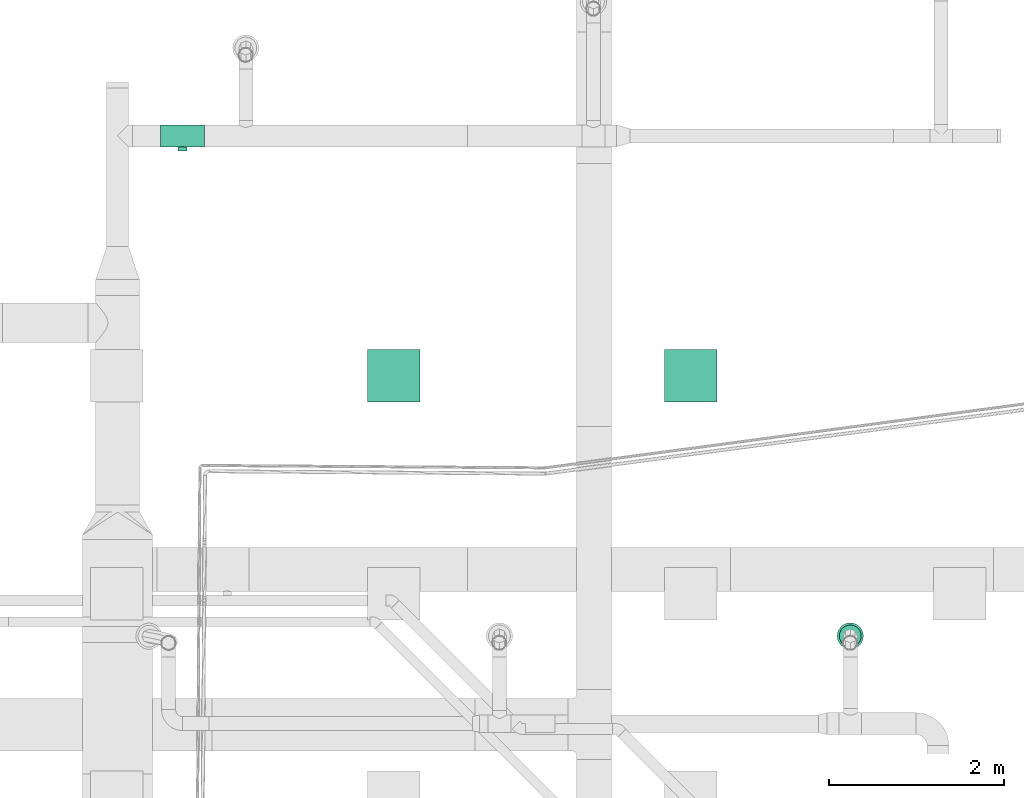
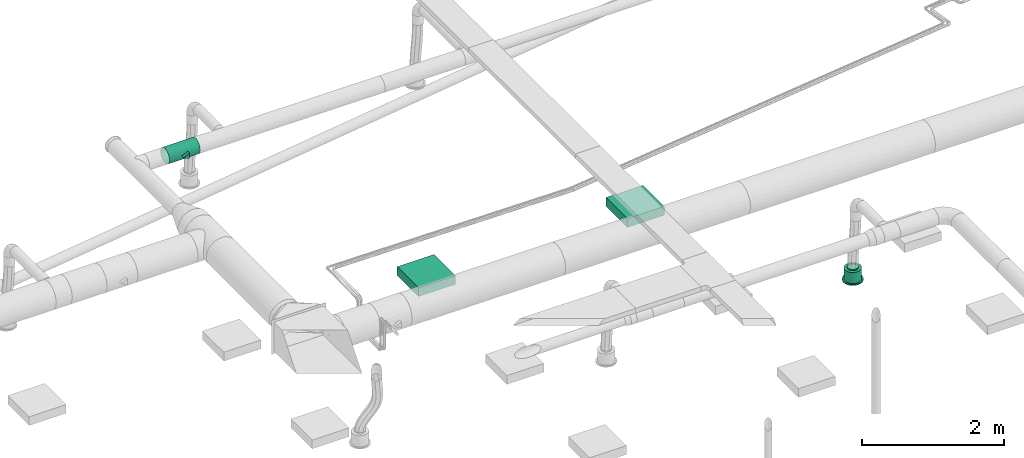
# One storey, part 177 of 374: 2 distribution elements, 1 flow controller, 1 flow terminal.
"""IFC2X3 building model written with IfcOpenShell, lengths in metres."""

from ifc_helpers import new_model, si_unit, direction, frame, frame_2d, origin, place, context, subcontext, project, spatial, rectangle, extrude, open_shell, surface_model, source, transform, mapped, element, save


model = new_model("IFC2X3")

# Units and contexts
model_context = context("Model", 3, precision=1e-05, world=origin(), true_north=direction((-0.4480736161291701, 0.8939966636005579)))
body_context = subcontext(model_context, "Body", "Model", "MODEL_VIEW")
ifc_project = project(units=[si_unit("LENGTHUNIT", "METRE"), si_unit("AREAUNIT", "SQUARE_METRE"), si_unit("VOLUMEUNIT", "CUBIC_METRE"), si_unit("PLANEANGLEUNIT", "RADIAN"), si_unit("THERMODYNAMICTEMPERATUREUNIT", "KELVIN"), si_unit("MASSUNIT", "GRAM", prefix="KILO"), si_unit("TIMEUNIT", "SECOND")], contexts=[model_context])

# Site, building, storey
site_placement = place(None, origin())
site = spatial("IfcSite", under=ifc_project, at=site_placement, Name="Site 1", CompositionType="ELEMENT")
building_placement = place(site_placement, origin())
building = spatial("IfcBuilding", under=site, at=building_placement, Name="Undefined", CompositionType="ELEMENT")
storey_placement = place(building_placement, origin())
storey = spatial("IfcBuildingStorey", under=building, at=storey_placement, Name="Rez de chauss\x8ee", CompositionType="ELEMENT", Elevation=0.0)

# Flow terminal
shared_shape_1 = source(origin(), body_context, "Body", "SurfaceModel", [
    surface_model("IfcFaceBasedSurfaceModel", [(0.0, 0.0, 0.0), (0.03915785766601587, 0.0, 0.0), (0.03915785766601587, 0.020000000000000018, 0.0), (3.552713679e-15, 0.020000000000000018, 0.0), (0.07698144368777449, 0.0, -0.010134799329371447), (0.07698144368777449, 0.020000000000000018, -0.010134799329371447), (0.11089314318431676, 0.0, -0.02971372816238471), (0.11089314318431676, 0.020000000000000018, -0.02971372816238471), (0.13858192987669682, 0.0, -0.05740251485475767), (0.13858192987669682, 0.020000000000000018, -0.05740251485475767), (0.15816085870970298, 0.0, -0.09131421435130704), (0.15816085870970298, 0.020000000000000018, -0.09131421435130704), (0.16829565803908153, 0.0, -0.12913780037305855), (0.16829565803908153, 0.020000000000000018, -0.12913780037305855), (0.16829565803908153, 0.0, -0.16829565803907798), (0.16829565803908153, 0.020000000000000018, -0.16829565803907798), (0.15816085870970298, 0.0, -0.20611924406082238), (0.15816085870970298, 0.020000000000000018, -0.20611924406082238), (0.13858192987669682, 0.0, -0.24003094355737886), (0.13858192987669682, 0.020000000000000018, -0.24003094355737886), (0.11089314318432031, 0.0, -0.2677197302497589), (0.11089314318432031, 0.020000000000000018, -0.2677197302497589), (0.07698144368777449, 0.0, -0.2872986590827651), (0.07698144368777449, 0.020000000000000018, -0.2872986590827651), (0.039157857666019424, 0.0, -0.29743345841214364), (0.039157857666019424, 0.020000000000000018, -0.29743345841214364), (3.552713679e-15, 0.0, -0.29743345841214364), (3.552713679e-15, 0.020000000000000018, -0.29743345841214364), (-0.03782358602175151, 0.0, -0.2872986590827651), (-0.03782358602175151, 0.020000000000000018, -0.2872986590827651), (-0.07173528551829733, 0.0, -0.2677197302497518), (-0.07173528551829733, 0.020000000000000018, -0.2677197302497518), (-0.0994240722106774, 0.0, -0.24003094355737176), (-0.0994240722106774, 0.020000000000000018, -0.24003094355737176), (-0.11900300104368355, 0.0, -0.2061192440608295), (-0.11900300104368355, 0.020000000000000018, -0.2061192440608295), (-0.1291378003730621, 0.0, -0.16829565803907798), (-0.1291378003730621, 0.020000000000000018, -0.16829565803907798), (-0.1291378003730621, 0.0, -0.12913780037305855), (-0.1291378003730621, 0.020000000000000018, -0.12913780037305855), (-0.11900300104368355, 0.0, -0.09131421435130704), (-0.11900300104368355, 0.020000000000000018, -0.09131421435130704), (-0.0994240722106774, 0.0, -0.05740251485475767), (-0.0994240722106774, 0.020000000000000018, -0.05740251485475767), (-0.07173528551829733, 0.0, -0.029713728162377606), (-0.07173528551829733, 0.020000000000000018, -0.029713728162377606), (-0.03782358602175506, 0.0, -0.010134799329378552), (-0.03782358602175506, 0.020000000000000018, -0.010134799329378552), (0.019578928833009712, 0.0, -0.14871672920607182), (0.019578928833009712, 0.020000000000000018, -0.14871672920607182), (0.003263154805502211, 0.020000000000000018, -0.02478612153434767), (0.035894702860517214, 0.020000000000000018, -0.02478612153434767), (0.035894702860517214, 0.20999999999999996, -0.02478612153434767), (0.003263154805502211, 0.20999999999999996, -0.02478612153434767), (0.06741435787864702, 0.020000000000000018, -0.033231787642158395), (0.06741435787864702, 0.20999999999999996, -0.033231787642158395), (0.0956741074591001, 0.020000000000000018, -0.04954756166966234), (0.0956741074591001, 0.20999999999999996, -0.04954756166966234), (0.11874809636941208, 0.020000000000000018, -0.07262155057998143), (0.11874809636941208, 0.20999999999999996, -0.07262155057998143), (0.13506387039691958, 0.020000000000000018, -0.10088130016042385), (0.13506387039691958, 0.20999999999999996, -0.10088130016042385), (0.1435095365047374, 0.020000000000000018, -0.13240095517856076), (0.1435095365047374, 0.20999999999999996, -0.13240095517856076), (0.1435095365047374, 0.020000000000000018, -0.16503250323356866), (0.1435095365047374, 0.20999999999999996, -0.16503250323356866), (0.13506387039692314, 0.020000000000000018, -0.19655215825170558), (0.13506387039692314, 0.20999999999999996, -0.19655215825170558), (0.11874809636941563, 0.020000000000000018, -0.2248119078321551), (0.11874809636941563, 0.20999999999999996, -0.2248119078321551), (0.09567410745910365, 0.020000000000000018, -0.24788589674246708), (0.09567410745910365, 0.20999999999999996, -0.24788589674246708), (0.06741435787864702, 0.020000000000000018, -0.26420167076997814), (0.06741435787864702, 0.20999999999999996, -0.26420167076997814), (0.035894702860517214, 0.020000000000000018, -0.27264733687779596), (0.035894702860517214, 0.20999999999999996, -0.27264733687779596), (0.0032631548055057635, 0.020000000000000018, -0.27264733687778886), (0.0032631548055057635, 0.20999999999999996, -0.27264733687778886), (-0.028256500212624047, 0.020000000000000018, -0.26420167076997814), (-0.028256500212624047, 0.20999999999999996, -0.26420167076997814), (-0.05651624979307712, 0.020000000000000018, -0.2478858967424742), (-0.05651624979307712, 0.20999999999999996, -0.2478858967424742), (-0.07959023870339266, 0.020000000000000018, -0.2248119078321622), (-0.07959023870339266, 0.20999999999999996, -0.2248119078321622), (-0.09590601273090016, 0.020000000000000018, -0.19655215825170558), (-0.09590601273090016, 0.20999999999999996, -0.19655215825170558), (-0.10435167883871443, 0.020000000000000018, -0.16503250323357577), (-0.10435167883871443, 0.20999999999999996, -0.16503250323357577), (-0.10435167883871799, 0.020000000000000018, -0.13240095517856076), (-0.10435167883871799, 0.20999999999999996, -0.13240095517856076), (-0.09590601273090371, 0.020000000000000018, -0.10088130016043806), (-0.09590601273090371, 0.20999999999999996, -0.10088130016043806), (-0.07959023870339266, 0.020000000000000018, -0.07262155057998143), (-0.07959023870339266, 0.20999999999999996, -0.07262155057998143), (-0.056516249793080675, 0.020000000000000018, -0.04954756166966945), (-0.056516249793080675, 0.20999999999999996, -0.04954756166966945), (-0.028256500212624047, 0.020000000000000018, -0.033231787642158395), (-0.028256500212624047, 0.20999999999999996, -0.033231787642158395), (0.019578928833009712, 0.20999999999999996, -0.14871672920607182), (0.009136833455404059, 0.20999999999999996, -0.06940114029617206), (0.030021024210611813, 0.20999999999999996, -0.06940114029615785), (0.030021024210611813, 0.22999999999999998, -0.06940114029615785), (0.009136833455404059, 0.22999999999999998, -0.06940114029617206), (0.05019360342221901, 0.20999999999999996, -0.07480636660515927), (0.05019360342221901, 0.22999999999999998, -0.07480636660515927), (0.06827984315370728, 0.20999999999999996, -0.08524846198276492), (0.06827984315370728, 0.22999999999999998, -0.08524846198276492), (0.0830471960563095, 0.20999999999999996, -0.10001581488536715), (0.0830471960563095, 0.22999999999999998, -0.10001581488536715), (0.0934892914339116, 0.20999999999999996, -0.11810205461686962), (0.0934892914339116, 0.22999999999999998, -0.11810205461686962), (0.09889451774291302, 0.20999999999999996, -0.13827463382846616), (0.09889451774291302, 0.22999999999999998, -0.13827463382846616), (0.09889451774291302, 0.20999999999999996, -0.15915882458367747), (0.09889451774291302, 0.22999999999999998, -0.15915882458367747), (0.09348929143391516, 0.20999999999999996, -0.179331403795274), (0.09348929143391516, 0.22999999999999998, -0.179331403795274), (0.0830471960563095, 0.20999999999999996, -0.19741764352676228), (0.0830471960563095, 0.22999999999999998, -0.19741764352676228), (0.06827984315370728, 0.20999999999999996, -0.2121849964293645), (0.06827984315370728, 0.22999999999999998, -0.2121849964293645), (0.05019360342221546, 0.20999999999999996, -0.22262709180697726), (0.05019360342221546, 0.22999999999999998, -0.22262709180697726), (0.030021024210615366, 0.20999999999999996, -0.22803231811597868), (0.030021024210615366, 0.22999999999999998, -0.22803231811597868), (0.009136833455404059, 0.20999999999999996, -0.22803231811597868), (0.009136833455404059, 0.22999999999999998, -0.22803231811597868), (-0.011035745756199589, 0.20999999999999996, -0.22262709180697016), (-0.011035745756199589, 0.22999999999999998, -0.22262709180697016), (-0.0291219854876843, 0.20999999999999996, -0.2121849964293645), (-0.0291219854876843, 0.22999999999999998, -0.2121849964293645), (-0.043889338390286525, 0.20999999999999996, -0.19741764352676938), (-0.043889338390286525, 0.22999999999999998, -0.19741764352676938), (-0.05433143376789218, 0.20999999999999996, -0.17933140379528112), (-0.05433143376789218, 0.22999999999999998, -0.17933140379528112), (-0.05973666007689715, 0.20999999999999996, -0.15915882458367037), (-0.05973666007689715, 0.22999999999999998, -0.15915882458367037), (-0.0597366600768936, 0.20999999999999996, -0.13827463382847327), (-0.0597366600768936, 0.22999999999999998, -0.13827463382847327), (-0.05433143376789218, 0.20999999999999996, -0.11810205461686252), (-0.05433143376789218, 0.22999999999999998, -0.11810205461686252), (-0.043889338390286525, 0.20999999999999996, -0.10001581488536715), (-0.043889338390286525, 0.22999999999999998, -0.10001581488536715), (-0.02912198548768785, 0.20999999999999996, -0.08524846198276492), (-0.02912198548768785, 0.22999999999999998, -0.08524846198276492), (-0.011035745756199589, 0.20999999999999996, -0.07480636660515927), (-0.011035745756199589, 0.22999999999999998, -0.07480636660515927)], [open_shell([[[0, 1, 2, 3]], [[1, 4, 5, 2]], [[4, 6, 7, 5]], [[6, 8, 9, 7]], [[8, 10, 11, 9]], [[10, 12, 13, 11]], [[12, 14, 15, 13]], [[14, 16, 17, 15]], [[16, 18, 19, 17]], [[18, 20, 21, 19]], [[20, 22, 23, 21]], [[22, 24, 25, 23]], [[24, 26, 27, 25]], [[26, 28, 29, 27]], [[28, 30, 31, 29]], [[30, 32, 33, 31]], [[32, 34, 35, 33]], [[34, 36, 37, 35]], [[36, 38, 39, 37]], [[38, 40, 41, 39]], [[40, 42, 43, 41]], [[42, 44, 45, 43]], [[44, 46, 47, 45]], [[46, 0, 3, 47]], [[48, 1, 0]], [[48, 4, 1]], [[48, 6, 4]], [[48, 8, 6]], [[48, 10, 8]], [[48, 12, 10]], [[48, 14, 12]], [[48, 16, 14]], [[48, 18, 16]], [[48, 20, 18]], [[48, 22, 20]], [[48, 24, 22]], [[48, 26, 24]], [[48, 28, 26]], [[48, 30, 28]], [[48, 32, 30]], [[48, 34, 32]], [[48, 36, 34]], [[48, 38, 36]], [[48, 40, 38]], [[48, 42, 40]], [[48, 44, 42]], [[48, 46, 44]], [[48, 0, 46]], [[49, 47, 3]], [[49, 45, 47]], [[49, 43, 45]], [[49, 41, 43]], [[49, 39, 41]], [[49, 37, 39]], [[49, 35, 37]], [[49, 33, 35]], [[49, 31, 33]], [[49, 29, 31]], [[49, 27, 29]], [[49, 25, 27]], [[49, 23, 25]], [[49, 21, 23]], [[49, 19, 21]], [[49, 17, 19]], [[49, 15, 17]], [[49, 13, 15]], [[49, 11, 13]], [[49, 9, 11]], [[49, 7, 9]], [[49, 5, 7]], [[49, 2, 5]], [[49, 3, 2]], [[50, 51, 52, 53]], [[51, 54, 55, 52]], [[54, 56, 57, 55]], [[56, 58, 59, 57]], [[58, 60, 61, 59]], [[60, 62, 63, 61]], [[62, 64, 65, 63]], [[64, 66, 67, 65]], [[66, 68, 69, 67]], [[68, 70, 71, 69]], [[70, 72, 73, 71]], [[72, 74, 75, 73]], [[74, 76, 77, 75]], [[76, 78, 79, 77]], [[78, 80, 81, 79]], [[80, 82, 83, 81]], [[82, 84, 85, 83]], [[84, 86, 87, 85]], [[86, 88, 89, 87]], [[88, 90, 91, 89]], [[90, 92, 93, 91]], [[92, 94, 95, 93]], [[94, 96, 97, 95]], [[96, 50, 53, 97]], [[49, 51, 50]], [[49, 54, 51]], [[49, 56, 54]], [[49, 58, 56]], [[49, 60, 58]], [[49, 62, 60]], [[49, 64, 62]], [[49, 66, 64]], [[49, 68, 66]], [[49, 70, 68]], [[49, 72, 70]], [[49, 74, 72]], [[49, 76, 74]], [[49, 78, 76]], [[49, 80, 78]], [[49, 82, 80]], [[49, 84, 82]], [[49, 86, 84]], [[49, 88, 86]], [[49, 90, 88]], [[49, 92, 90]], [[49, 94, 92]], [[49, 96, 94]], [[49, 50, 96]], [[98, 97, 53]], [[98, 95, 97]], [[98, 93, 95]], [[98, 91, 93]], [[98, 89, 91]], [[98, 87, 89]], [[98, 85, 87]], [[98, 83, 85]], [[98, 81, 83]], [[98, 79, 81]], [[98, 77, 79]], [[98, 75, 77]], [[98, 73, 75]], [[98, 71, 73]], [[98, 69, 71]], [[98, 67, 69]], [[98, 65, 67]], [[98, 63, 65]], [[98, 61, 63]], [[98, 59, 61]], [[98, 57, 59]], [[98, 55, 57]], [[98, 52, 55]], [[98, 53, 52]], [[99, 100, 101, 102]], [[100, 103, 104, 101]], [[103, 105, 106, 104]], [[105, 107, 108, 106]], [[107, 109, 110, 108]], [[109, 111, 112, 110]], [[111, 113, 114, 112]], [[113, 115, 116, 114]], [[115, 117, 118, 116]], [[117, 119, 120, 118]], [[119, 121, 122, 120]], [[121, 123, 124, 122]], [[123, 125, 126, 124]], [[125, 127, 128, 126]], [[127, 129, 130, 128]], [[129, 131, 132, 130]], [[131, 133, 134, 132]], [[133, 135, 136, 134]], [[135, 137, 138, 136]], [[137, 139, 140, 138]], [[139, 141, 142, 140]], [[141, 143, 144, 142]], [[143, 145, 146, 144]], [[145, 99, 102, 146]]])]),
])
flow_terminal_placement = place(storey_placement, origin())
element("IfcFlowTerminal", 1, at=flow_terminal_placement, inside=storey, Name="Air diffuseur - bouche", ObjectType="Air diffuseur - bouche", context=body_context, shape_type="MappedRepresentation", body=[
    mapped(shared_shape_1, transform((60.28924025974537, 16.804999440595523, 2.38), x_axis=(0.9914448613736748, 0.13052619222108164, 0.0), y_axis=(0.0, 0.0, 1.0), z_axis=(0.13052619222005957, -0.9914448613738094, 0.0))),
])

# Flow controller
shared_shape_2 = source(origin(), body_context, "Body", "SurfaceModel", [
    surface_model("IfcFaceBasedSurfaceModel", [(0.125, 0.032631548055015, 0.0), (0.0, 0.03263154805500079, 0.0), (0.0, 0.0, 0.0), (0.1292592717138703, 0.0, 0.0), (0.0, -0.031519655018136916, -0.008445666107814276), (0.14174682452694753, -0.03151965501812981, -0.008445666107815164), (0.0, -0.05977940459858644, -0.024761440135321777), (0.16161165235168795, -0.05977940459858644, -0.024761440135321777), (0.0, -0.08285339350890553, -0.047835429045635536), (0.1875, -0.08285339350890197, -0.047835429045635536), (0.0, -0.09916916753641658, -0.07609517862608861), (0.21764761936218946, -0.09916916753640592, -0.07609517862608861), (0.0, -0.1076148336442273, -0.10761483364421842), (0.25, -0.1076148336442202, -0.1076148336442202), (0.0, -0.1076148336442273, -0.14024638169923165), (0.28235238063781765, -0.10761483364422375, -0.14024638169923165), (0.0, -0.09916916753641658, -0.17176603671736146), (0.3125, -0.09916916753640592, -0.17176603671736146), (0.0, -0.08285339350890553, -0.2000257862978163), (0.33838834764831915, -0.08285339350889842, -0.2000257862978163), (0.0, -0.059779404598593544, -0.22309977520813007), (0.35825317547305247, -0.05977940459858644, -0.22309977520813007), (0.0, -0.03151965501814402, -0.23941554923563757), (0.3707407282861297, -0.03151965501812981, -0.23941554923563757), (0.0, -1.4210854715e-14, -0.24786121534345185), (0.375, 0.0, -0.24786121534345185), (0.0, 0.03263154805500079, -0.24786121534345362), (0.3707407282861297, 0.03263154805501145, -0.24786121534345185), (0.0, 0.0641512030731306, -0.23941554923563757), (0.35825317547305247, 0.06415120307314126, -0.23941554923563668), (0.0, 0.09241095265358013, -0.22309977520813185), (0.33838834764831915, 0.09241095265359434, -0.22309977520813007), (0.0, 0.11548494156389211, -0.2000257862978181), (0.3125, 0.11548494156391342, -0.2000257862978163), (0.0, 0.13180071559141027, -0.171766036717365), (0.28235238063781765, 0.13180071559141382, -0.17176603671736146), (0.0, 0.140246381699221, -0.1402463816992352), (0.25, 0.14024638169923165, -0.14024638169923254), (0.0, 0.140246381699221, -0.10761483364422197), (0.21764761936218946, 0.14024638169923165, -0.10761483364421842), (0.0, 0.13180071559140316, -0.07609517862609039), (0.1875, 0.13180071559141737, -0.0760951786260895), (0.0, 0.11548494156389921, -0.04783542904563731), (0.16161165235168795, 0.11548494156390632, -0.047835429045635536), (0.0, 0.09241095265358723, -0.024761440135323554), (0.14174682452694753, 0.09241095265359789, -0.024761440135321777), (0.0, 0.06415120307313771, -0.008445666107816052), (0.1292592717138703, 0.06415120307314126, -0.008445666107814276), (0.5, 0.032631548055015, 0.0), (0.5, 0.0, 0.0), (0.5, -0.03151965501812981, -0.008445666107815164), (0.5, -0.05977940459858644, -0.024761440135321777), (0.5, -0.08285339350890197, -0.047835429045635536), (0.5, -0.09916916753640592, -0.07609517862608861), (0.5, -0.1076148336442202, -0.1076148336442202), (0.5, -0.10761483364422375, -0.14024638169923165), (0.5, -0.09916916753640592, -0.17176603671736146), (0.5, -0.08285339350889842, -0.2000257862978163), (0.5, -0.05977940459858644, -0.22309977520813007), (0.5, -0.03151965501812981, -0.23941554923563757), (0.5, 0.0, -0.24786121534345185), (0.5, 0.03263154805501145, -0.24786121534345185), (0.5, 0.06415120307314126, -0.23941554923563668), (0.5, 0.09241095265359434, -0.22309977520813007), (0.5, 0.11548494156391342, -0.2000257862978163), (0.5, 0.13180071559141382, -0.17176603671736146), (0.5, 0.14024638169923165, -0.14024638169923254), (0.5, 0.14024638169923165, -0.10761483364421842), (0.5, 0.13180071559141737, -0.0760951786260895), (0.5, 0.11548494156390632, -0.047835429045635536), (0.5, 0.09241095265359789, -0.024761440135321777), (0.5, 0.06415120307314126, -0.008445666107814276), (0.25, 0.14187795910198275, -0.1278533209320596), (0.24676476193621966, 0.14182236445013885, -0.12827560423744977), (0.24676476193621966, -0.106038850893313, -0.09564405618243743), (0.25, -0.10598325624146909, -0.09522177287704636), (0.24374999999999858, 0.14165936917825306, -0.12951367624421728), (0.24374999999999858, -0.10620184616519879, -0.09688212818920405), (0.2411611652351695, 0.14140008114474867, -0.13148316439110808), (0.2411611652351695, -0.10646113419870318, -0.09885161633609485), (0.2391746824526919, 0.14106217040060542, -0.1340498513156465), (0.2391746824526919, -0.10679904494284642, -0.10141830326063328), (0.23792592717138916, 0.14066866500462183, -0.13703882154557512), (0.23792592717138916, -0.10719255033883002, -0.10440727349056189), (0.23750000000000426, 0.14024638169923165, -0.14024638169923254), (0.23750000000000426, -0.1076148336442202, -0.1076148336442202), (0.23792592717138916, 0.13982409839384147, -0.14345394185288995), (0.23792592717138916, -0.10803711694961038, -0.11082239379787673), (0.2391746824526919, 0.13943059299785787, -0.14644291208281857), (0.2391746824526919, -0.10843062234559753, -0.11381136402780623), (0.2411611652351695, 0.13909268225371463, -0.149009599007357), (0.2411611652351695, -0.10876853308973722, -0.11637805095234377), (0.24374999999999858, 0.13883339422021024, -0.1509790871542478), (0.24374999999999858, -0.10902782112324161, -0.11834753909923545), (0.24676476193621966, 0.13867039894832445, -0.15221715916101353), (0.24676476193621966, -0.1091908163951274, -0.11958561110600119), (0.25, 0.13861480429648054, -0.1526394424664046), (0.25, -0.1092464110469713, -0.12000789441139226), (0.25323523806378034, 0.13867039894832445, -0.15221715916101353), (0.25323523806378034, -0.1091908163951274, -0.11958561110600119), (0.2562500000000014, 0.13883339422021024, -0.1509790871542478), (0.2562500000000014, -0.10902782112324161, -0.11834753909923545), (0.2588388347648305, 0.13909268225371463, -0.149009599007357), (0.2588388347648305, -0.10876853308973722, -0.11637805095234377), (0.2608253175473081, 0.13943059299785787, -0.14644291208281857), (0.2608253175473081, -0.10843062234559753, -0.11381136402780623), (0.26207407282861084, 0.13982409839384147, -0.14345394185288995), (0.26207407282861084, -0.10803711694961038, -0.11082239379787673), (0.26250000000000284, 0.14024638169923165, -0.14024638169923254), (0.26250000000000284, -0.1076148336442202, -0.1076148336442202), (0.26207407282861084, 0.14066866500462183, -0.13703882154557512), (0.26207407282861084, -0.10719255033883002, -0.10440727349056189), (0.2608253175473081, 0.14106217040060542, -0.1340498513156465), (0.2608253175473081, -0.10679904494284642, -0.10141830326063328), (0.2588388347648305, 0.14140008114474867, -0.13148316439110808), (0.2588388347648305, -0.10646113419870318, -0.09885161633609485), (0.2562500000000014, 0.14165936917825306, -0.12951367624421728), (0.2562500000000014, -0.10620184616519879, -0.09688212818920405), (0.25323523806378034, 0.14182236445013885, -0.12827560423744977), (0.25323523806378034, -0.106038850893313, -0.09564405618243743), (0.30000000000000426, -0.11414114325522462, -0.1571870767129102), (0.30000000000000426, -0.10108852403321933, -0.05804259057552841), (0.30000000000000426, -0.15066076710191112, -0.05151628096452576), (0.30000000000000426, -0.1637133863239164, -0.15066076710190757), (0.20000000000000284, -0.1076148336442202, -0.1076148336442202), (0.20000000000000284, -0.157187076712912, -0.10108852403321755)], [open_shell([[[0, 1, 2, 3]], [[3, 2, 4, 5]], [[5, 4, 6, 7]], [[7, 6, 8, 9]], [[9, 8, 10, 11]], [[11, 10, 12, 13]], [[13, 12, 14, 15]], [[15, 14, 16, 17]], [[17, 16, 18, 19]], [[19, 18, 20, 21]], [[21, 20, 22, 23]], [[23, 22, 24, 25]], [[25, 24, 26, 27]], [[27, 26, 28, 29]], [[29, 28, 30, 31]], [[31, 30, 32, 33]], [[33, 32, 34, 35]], [[35, 34, 36, 37]], [[37, 36, 38, 39]], [[39, 38, 40, 41]], [[41, 40, 42, 43]], [[43, 42, 44, 45]], [[45, 44, 46, 47]], [[47, 46, 1, 0]], [[48, 0, 3, 49]], [[49, 3, 5, 50]], [[50, 5, 7, 51]], [[51, 7, 9, 52]], [[52, 9, 11, 53]], [[53, 11, 13, 54]], [[54, 13, 15, 55]], [[55, 15, 17, 56]], [[56, 17, 19, 57]], [[57, 19, 21, 58]], [[58, 21, 23, 59]], [[59, 23, 25, 60]], [[60, 25, 27, 61]], [[61, 27, 29, 62]], [[62, 29, 31, 63]], [[63, 31, 33, 64]], [[64, 33, 35, 65]], [[65, 35, 37, 66]], [[66, 37, 39, 67]], [[67, 39, 41, 68]], [[68, 41, 43, 69]], [[69, 43, 45, 70]], [[70, 45, 47, 71]], [[71, 47, 0, 48]], [[72, 73, 74, 75]], [[73, 76, 77, 74]], [[76, 78, 79, 77]], [[78, 80, 81, 79]], [[80, 82, 83, 81]], [[82, 84, 85, 83]], [[84, 86, 87, 85]], [[86, 88, 89, 87]], [[88, 90, 91, 89]], [[90, 92, 93, 91]], [[92, 94, 95, 93]], [[94, 96, 97, 95]], [[96, 98, 99, 97]], [[98, 100, 101, 99]], [[100, 102, 103, 101]], [[102, 104, 105, 103]], [[104, 106, 107, 105]], [[106, 108, 109, 107]], [[108, 110, 111, 109]], [[110, 112, 113, 111]], [[112, 114, 115, 113]], [[114, 116, 117, 115]], [[116, 118, 119, 117]], [[118, 72, 75, 119]], [[37, 73, 72]], [[37, 76, 73]], [[37, 78, 76]], [[37, 80, 78]], [[37, 82, 80]], [[37, 84, 82]], [[37, 86, 84]], [[37, 88, 86]], [[37, 90, 88]], [[37, 92, 90]], [[37, 94, 92]], [[37, 96, 94]], [[37, 98, 96]], [[37, 100, 98]], [[37, 102, 100]], [[37, 104, 102]], [[37, 106, 104]], [[37, 108, 106]], [[37, 110, 108]], [[37, 112, 110]], [[37, 114, 112]], [[37, 116, 114]], [[37, 118, 116]], [[37, 72, 118]], [[13, 119, 75]], [[13, 117, 119]], [[13, 115, 117]], [[13, 113, 115]], [[13, 111, 113]], [[13, 109, 111]], [[13, 107, 109]], [[13, 105, 107]], [[13, 103, 105]], [[13, 101, 103]], [[13, 99, 101]], [[13, 97, 99]], [[13, 95, 97]], [[13, 93, 95]], [[13, 91, 93]], [[13, 89, 91]], [[13, 87, 89]], [[13, 85, 87]], [[13, 83, 85]], [[13, 81, 83]], [[13, 79, 81]], [[13, 77, 79]], [[13, 74, 77]], [[13, 75, 74]], [[120, 121, 122, 123]], [[121, 124, 125, 122]], [[124, 120, 123, 125]], [[123, 122, 125]], [[124, 121, 120]]])]),
])
flow_controller_placement = place(storey_placement, origin())
element("IfcFlowController", 2, at=flow_controller_placement, inside=storey, Name="Clapet de réglage cylindrique", ObjectType="Clapet de réglage cylindrique", context=body_context, shape_type="MappedRepresentation", body=[
    mapped(shared_shape_2, transform((52.424995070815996, 22.625523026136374, 3.920740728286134), x_axis=(1.0, 0.0, 0.0), y_axis=(0.0, 0.9914448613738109, 0.1305261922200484), z_axis=(0.0, -0.1305261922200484, 0.9914448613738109))),
])

# Distribution elements
distribution_element_1_placement = place(storey_placement, origin())
element("IfcDistributionElement", 3, at=distribution_element_1_placement, inside=storey, Name="Decken-Rechteckleuchte mit Rahmen AP", ObjectType="Decken-Rechteckleuchte mit Rahmen AP", context=body_context, shape_type="SweptSolid", body=[
    extrude(rectangle(XDim=0.6000000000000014, YDim=0.6000000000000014, at=frame_2d((3.552713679e-15, 0.0), x_axis=(0.0, 1.0))), frame((55.08360573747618, 19.920550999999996, 2.5500000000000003), z_axis=(0.0, 0.0, -1.0), x_axis=(1.0, 0.0, 0.0)), (0.0, 0.0, 1.0), 0.15),
])
distribution_element_2_placement = place(storey_placement, origin())
element("IfcDistributionElement", 4, at=distribution_element_2_placement, inside=storey, Name="Decken-Rechteckleuchte mit Rahmen AP", ObjectType="Decken-Rechteckleuchte mit Rahmen AP", context=body_context, shape_type="SweptSolid", body=[
    extrude(rectangle(XDim=0.6000000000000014, YDim=0.6000000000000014, at=frame_2d((3.552713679e-15, 0.0), x_axis=(0.0, 1.0))), frame((58.47136596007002, 19.920550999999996, 2.5500000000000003), z_axis=(0.0, 0.0, -1.0), x_axis=(1.0, 0.0, 0.0)), (0.0, 0.0, 1.0), 0.15),
])

save(model, "model.ifc")
